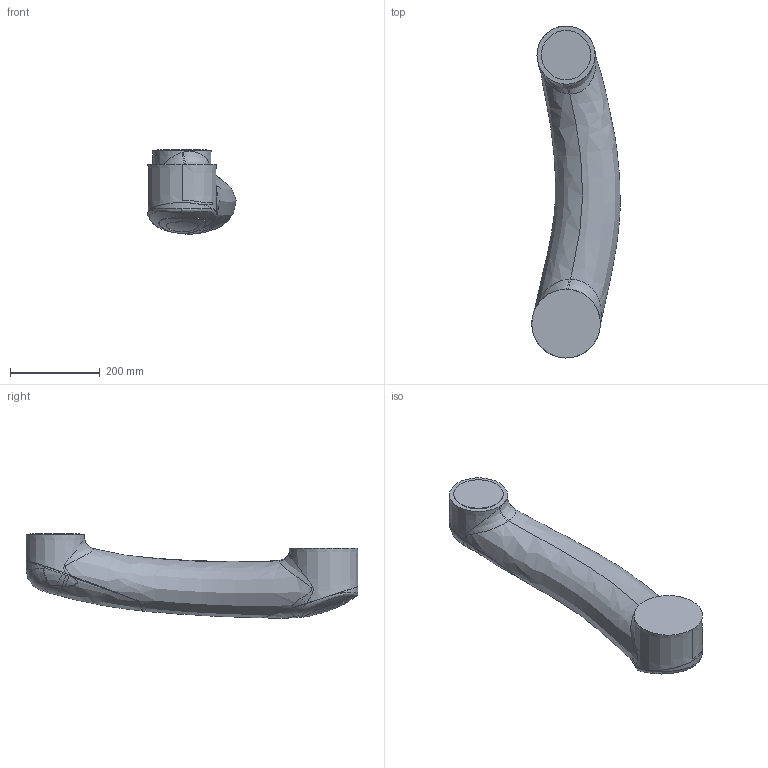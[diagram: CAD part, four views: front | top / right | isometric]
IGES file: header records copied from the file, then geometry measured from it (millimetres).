
Start section:  PTC IGES file: laxis_view_yr-n1-06vxc12-a00_.igs
Global section: file name: laxis_view_yr-n1-06vxc12-a00_.igs; native system: Creo Parametric by PTC Inc.; preprocessor: 2021072; author: yoizumi; organization: Unknown; date: 20250214.090625; units: millimetre
Bounding box: 197.59 x 741.6 x 188.52 mm (x, y, z)
Volume: 10939086.8 mm3; surface area: 369228.7 mm2
Topology: 1 solids, 2 shells, 150 faces, 389 edges, 243 vertices
Faces by surface type: bspline 133, revolution 17
